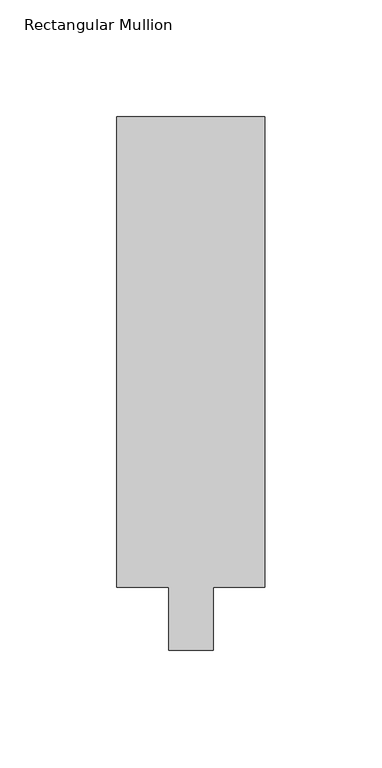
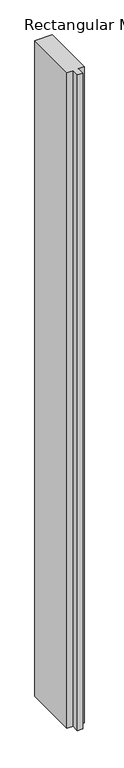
"""IFC4 building model written with IfcOpenShell, lengths in millimetres: member geometry."""

from ifc_helpers import new_model, si_unit, frame, origin, place, context, project, spatial, polyline, outline, extrude, source, transform, mapped, element, save


def rectangular_mullion_779ff2c7(model_context):
    return source(origin(), model_context, "Body", "SweptSolid", [
        extrude(outline(polyline([(0.0, 228.6), (0.0, 26.9875), (-22.225, 26.9875), (-22.225, 0.0), (-41.275, 0.0), (-41.275, 26.9875), (-63.5, 26.9875), (-63.5, 228.6), (0.0, 228.6)])), frame((0.0, 0.0, -2517.3116285), z_axis=(0.0, 0.0, 1.0), x_axis=(1.0, 0.0, 0.0)), (0.0, 0.0, 1.0), 2517.3116285),
    ])


if __name__ == "__main__":
    model = new_model("IFC4")
    model_context = context("Model", 3, world=origin())
    ifc_project = project(units=[si_unit("LENGTHUNIT", "METRE", prefix="MILLI")], contexts=[model_context])
    site = spatial("IfcSite", under=ifc_project)
    building = spatial("IfcBuilding", under=site)
    placement = place(None, origin())
    rectangular_mullion_shape = rectangular_mullion_779ff2c7(model_context)
    element("IfcMember", 1, ObjectType="Rectangular Mullion : 2 1/2\" x 8\" - Capless", at=placement, inside=building, context=model_context, shape_type="MappedRepresentation", body=[
        mapped(rectangular_mullion_shape, transform((0.0, 0.0, 0.0), x_axis=(1.0, 0.0, 0.0), y_axis=(0.0, 1.0, 0.0), z_axis=(0.0, 0.0, 1.0))),
    ])
    save(model, "model.ifc")
